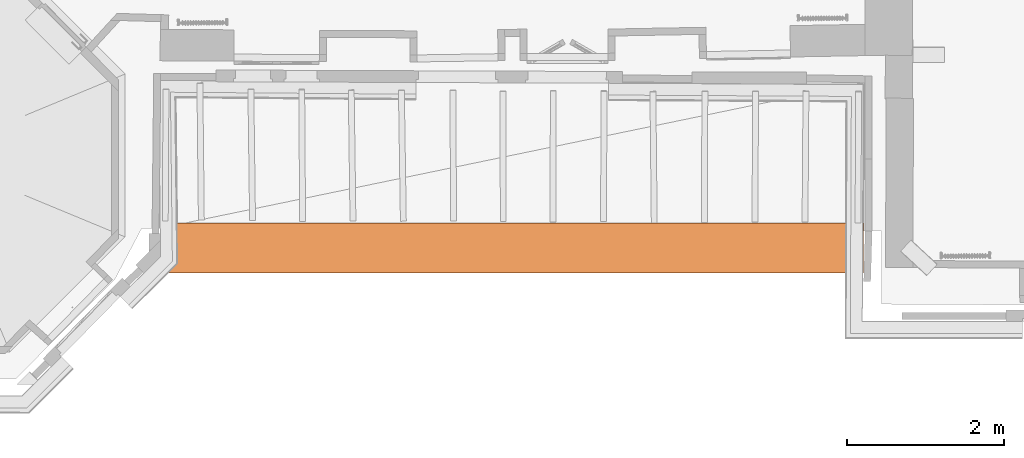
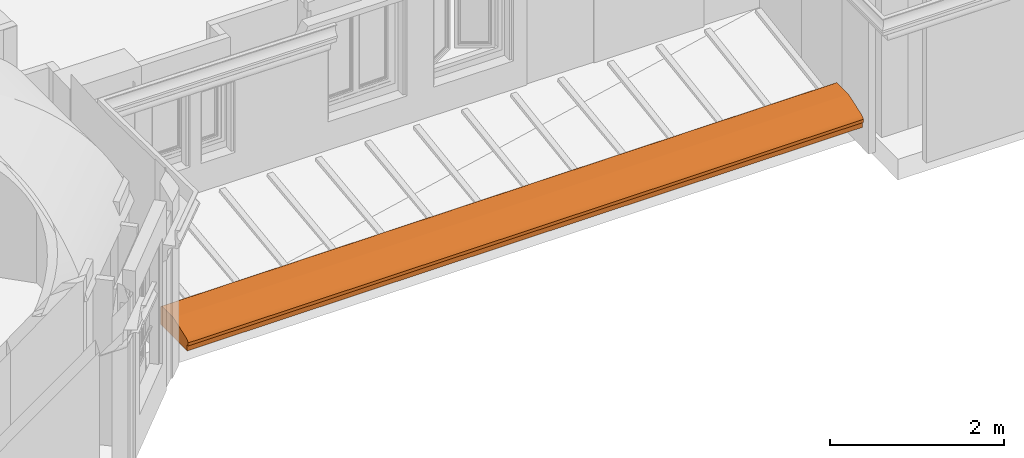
# One storey, part 72 of 72: 1 proxy.
"""IFC2X3 building model written with IfcOpenShell, lengths in centimetres."""

from ifc_helpers import new_model, entity, si_unit, converted_unit, point, direction, frame, frame_2d, origin, origin_with_axes, place, context, subcontext, project, spatial, polyline, circle_curve, trimmed, segment, composite_curve, outline, extrude, source, transform, mapped, material, type_object, element, save


model = new_model("IFC2X3")

# Units and contexts
model_context = context("Model", 3, precision=0.0001, world=origin(), true_north=direction((0.225632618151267, 0.974212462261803, 0.0)))
body_context = subcontext(model_context, "Body", "Model", "MODEL_VIEW")
ifc_project = project(units=[si_unit("LENGTHUNIT", "METRE", prefix="CENTI"), si_unit("AREAUNIT", "SQUARE_METRE", prefix="CENTI"), si_unit("VOLUMEUNIT", "CUBIC_METRE", prefix="CENTI"), converted_unit("PLANEANGLEUNIT", "DEGREE", entity("IfcRatioMeasure", 0.0174532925), si_unit("PLANEANGLEUNIT", "RADIAN"), dimensions=[0, 0, 0, 0, 0, 0, 0])], contexts=[model_context])

# Site, building, storey
site_placement = place(None, origin_with_axes())
site = spatial("IfcSite", under=ifc_project, at=site_placement, Name="Default Site", CompositionType="ELEMENT")
building_placement = place(site_placement, origin_with_axes())
building = spatial("IfcBuilding", under=site, at=building_placement, Name="Default Building", CompositionType="ELEMENT")
storey_placement = place(building_placement, frame((0.0, 0.0, 853.910374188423), z_axis=(0.0, 0.0, 1.0), x_axis=(1.0, 0.0, 0.0)))
storey = spatial("IfcBuildingStorey", under=building, at=storey_placement, Name="Niveau 2", CompositionType="ELEMENT", Elevation=853.910374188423)

# Proxy
ifc_material = material(Name="Aluminium mat")
building_element_proxy_type = type_object("IfcBuildingElementProxyType", Name="Couvertine niv1", PredefinedType="NOTDEFINED", material=ifc_material)
shared_shape = source(origin_with_axes(), body_context, "Body", "SweptSolid", [
    extrude(outline(composite_curve([segment(polyline([(-28.6875394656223, 12.4372527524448), (-28.6875394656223, -12.3430053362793), (1.31246046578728, -12.3430053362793), (32.5422474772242, -12.568005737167), (32.5990477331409, -4.06378532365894), (34.975164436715, -4.08090446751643), (35.0065752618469, 0.278880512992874)]), True, "CONTINUOUS"), segment(trimmed(circle_curve(frame_2d((26.1936722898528, -4.69862050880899), x_axis=(1.0, 0.0)), 10.1214018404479), [point((35.0065752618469, 0.278880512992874))], [point((29.6202054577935, 4.82512065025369))], True, "CARTESIAN"), True, "CONTINUOUS"), segment(polyline([(29.6202054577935, 4.82512065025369), (0.740205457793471, 14.8040300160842), (-25.0316187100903, 14.8040300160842)]), True, "CONTINUOUS"), segment(trimmed(circle_curve(frame_2d((-24.9087501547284, 10.6072289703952), x_axis=(1.0, 0.0)), 4.19859925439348), [point((-25.0316187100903, 14.8040300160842))], [point((-28.6875394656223, 12.4372527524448))], True, "CARTESIAN"), True, "CONTINUOUS")], self_intersect=False)), origin_with_axes(), (0.0, 0.0, 1.0), 100.0),
])
proxy_placement = place(storey_placement, frame((-656.702453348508, -924.22942307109, 30.0000000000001), z_axis=(-1.0, 0.0, 0.0), x_axis=(0.0, -1.0, 0.0)))
element("IfcBuildingElementProxy", 1, at=proxy_placement, inside=storey, type_object=building_element_proxy_type, material=ifc_material, Name="Extrusion (solide) 954630", context=body_context, shape_type="MappedRepresentation", body=[
    mapped(shared_shape, transform((28.6875394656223, 12.3430053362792, 0.0), x_axis=(1.0, 0.0, 0.0), y_axis=(0.0, 1.0, 0.0), z_axis=(0.0, 0.0, -1.0), scale=1.0, scale2=1.0, scale3=8.97173378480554, uniform=False)),
])

save(model, "model.ifc")
